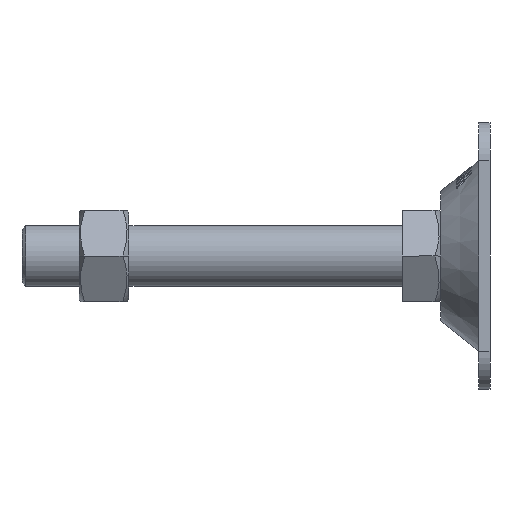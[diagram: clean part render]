
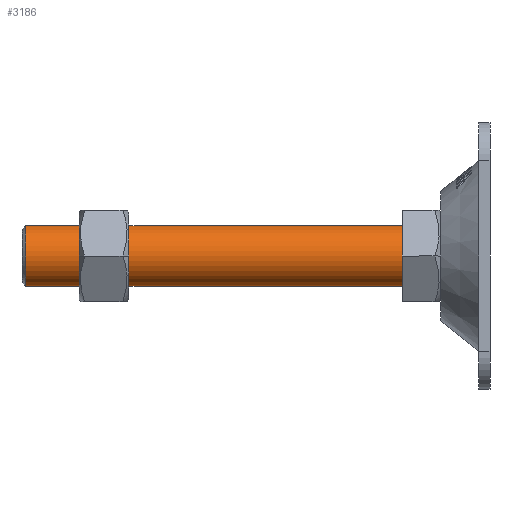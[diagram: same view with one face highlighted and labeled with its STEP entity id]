
A CAD part, left-side view. The second image highlights one B-rep face of the part: STEP entity #3186.
In plain terms, the highlighted cylindrical face has radius 8 mm (diameter 16 mm), a partial arc.
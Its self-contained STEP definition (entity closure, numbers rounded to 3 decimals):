
#235 = CARTESIAN_POINT ( 'NONE',  ( 0., 8., 8. ) ) ;
#345 = DIRECTION ( 'NONE',  ( 0., -1., 0. ) ) ;
#401 = ORIENTED_EDGE ( 'NONE', *, *, #3755, .T. ) ;
#458 = ORIENTED_EDGE ( 'NONE', *, *, #4356, .T. ) ;
#781 = CARTESIAN_POINT ( 'NONE',  ( 0., 109., 0. ) ) ;
#795 = CARTESIAN_POINT ( 'NONE',  ( 0., 10., -8. ) ) ;
#1170 = CYLINDRICAL_SURFACE ( 'NONE', #1613, 8. ) ;
#1613 = AXIS2_PLACEMENT_3D ( 'NONE', #4915, #3493, #3406 ) ;
#1816 = DIRECTION ( 'NONE',  ( 0., -1., 0. ) ) ;
#1868 = DIRECTION ( 'NONE',  ( 0., 1., 0. ) ) ;
#2300 = VECTOR ( 'NONE', #5913, 1000. ) ;
#2337 = CARTESIAN_POINT ( 'NONE',  ( 0., 10., 0. ) ) ;
#2424 = AXIS2_PLACEMENT_3D ( 'NONE', #2337, #1868, #4215 ) ;
#2688 = CARTESIAN_POINT ( 'NONE',  ( 0., 109., -8. ) ) ;
#2694 = EDGE_CURVE ( 'NONE', #3021, #5425, #5790, .T. ) ;
#2765 = VERTEX_POINT ( 'NONE', #795 ) ;
#3021 = VERTEX_POINT ( 'NONE', #4328 ) ;
#3186 = ADVANCED_FACE ( 'NONE', ( #5342 ), #1170, .T. ) ;
#3339 = EDGE_LOOP ( 'NONE', ( #4861, #458, #401, #4934 ) ) ;
#3406 = DIRECTION ( 'NONE',  ( 0., 0., -1. ) ) ;
#3493 = DIRECTION ( 'NONE',  ( 0., -1., 0. ) ) ;
#3705 = CARTESIAN_POINT ( 'NONE',  ( 0., 10., 8. ) ) ;
#3755 = EDGE_CURVE ( 'NONE', #4288, #2765, #4221, .T. ) ;
#4018 = DIRECTION ( 'NONE',  ( 0., 0., -1. ) ) ;
#4102 = CARTESIAN_POINT ( 'NONE',  ( 0., 8., -8. ) ) ;
#4215 = DIRECTION ( 'NONE',  ( 0., 0., 1. ) ) ;
#4221 = LINE ( 'NONE', #4102, #4774 ) ;
#4288 = VERTEX_POINT ( 'NONE', #2688 ) ;
#4328 = CARTESIAN_POINT ( 'NONE',  ( 0., 109., 8. ) ) ;
#4356 = EDGE_CURVE ( 'NONE', #3021, #4288, #5753, .T. ) ;
#4584 = CIRCLE ( 'NONE', #2424, 8. ) ;
#4774 = VECTOR ( 'NONE', #1816, 1000. ) ;
#4861 = ORIENTED_EDGE ( 'NONE', *, *, #2694, .F. ) ;
#4915 = CARTESIAN_POINT ( 'NONE',  ( 0., 8., 0. ) ) ;
#4934 = ORIENTED_EDGE ( 'NONE', *, *, #5254, .T. ) ;
#5165 = AXIS2_PLACEMENT_3D ( 'NONE', #781, #345, #4018 ) ;
#5254 = EDGE_CURVE ( 'NONE', #2765, #5425, #4584, .T. ) ;
#5342 = FACE_OUTER_BOUND ( 'NONE', #3339, .T. ) ;
#5425 = VERTEX_POINT ( 'NONE', #3705 ) ;
#5753 = CIRCLE ( 'NONE', #5165, 8. ) ;
#5790 = LINE ( 'NONE', #235, #2300 ) ;
#5913 = DIRECTION ( 'NONE',  ( 0., -1., 0. ) ) ;
